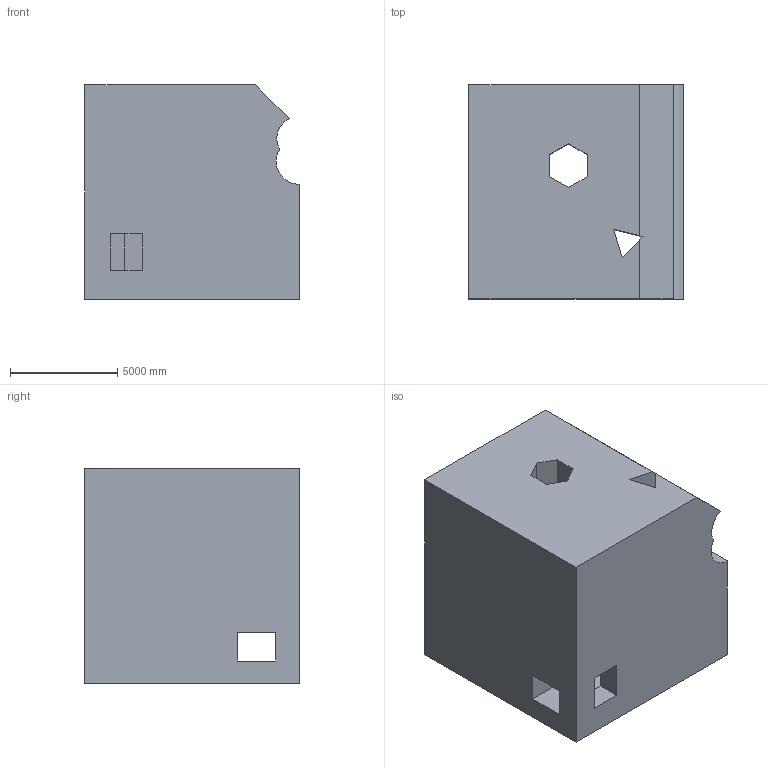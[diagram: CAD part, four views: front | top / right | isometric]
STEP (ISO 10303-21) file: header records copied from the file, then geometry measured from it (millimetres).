
FILE_DESCRIPTION (( 'STEP AP203' ), '1' );
FILE_NAME ('949.STEP', '2022-07-29T14:35:51', ( 'user' ), ( '' ), 'SwSTEP 2.0', 'SolidWorks 2021', '' );
FILE_SCHEMA (( 'CONFIG_CONTROL_DESIGN' ));
Length unit declared in the file: centimetre
Products named in the file (1): 949
Bounding box: 10000 x 10000 x 10000 mm (x, y, z)
Volume: 858707585283.3 mm3; surface area: 769732695.7 mm2
Topology: 1 solids, 1 shells, 43 faces, 129 edges, 86 vertices
Faces by surface type: plane 38, cylinder 5
Entity records: 1530 total; most frequent: CARTESIAN_POINT 259, ORIENTED_EDGE 258, DIRECTION 227, EDGE_CURVE 129, VECTOR 119, LINE 119, VERTEX_POINT 86, AXIS2_PLACEMENT_3D 54
